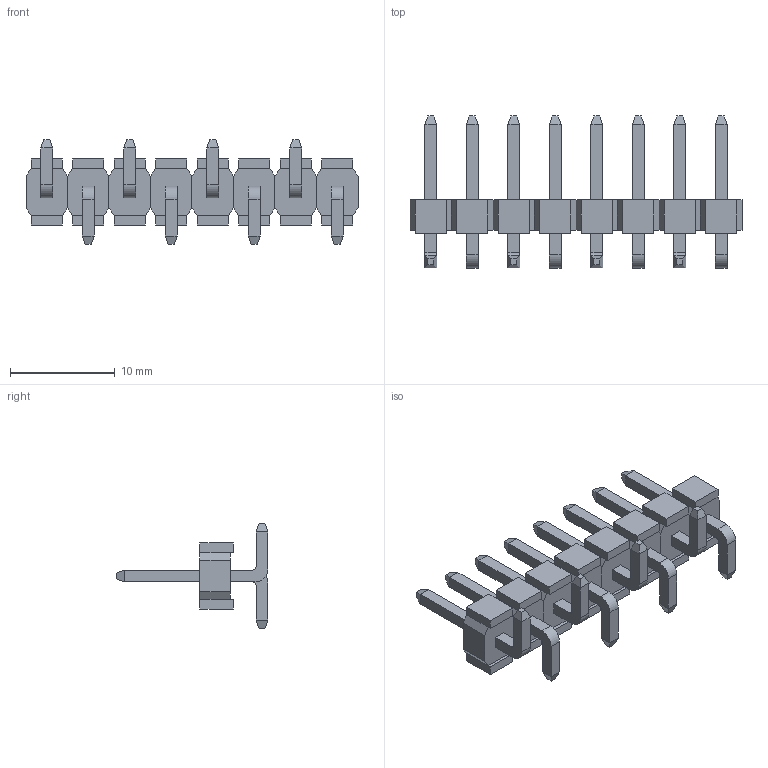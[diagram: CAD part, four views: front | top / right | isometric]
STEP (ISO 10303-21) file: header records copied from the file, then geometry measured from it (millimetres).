
FILE_DESCRIPTION (( 'STEP AP214' ), '1' );
FILE_NAME ('PZ396-1-8-S-3.2-XX-X(L14.5) (3.96等齬 齬渀 泂え 呿詢3.2-HCTL).STEP', '2024-11-26T06:38:50', ( '' ), ( '' ), 'SwSTEP 2.0', 'SolidWorks 2022', '' );
FILE_SCHEMA (( 'AUTOMOTIVE_DESIGN' ));
Length unit declared in the file: millimetre
Products named in the file (1): PZ396-1-8-S-3.2-XX-X(L14.5) (3.96等齬 齬渀 泂え 呿詢3.2-HCTL)
Bounding box: 31.68 x 14.5 x 10 mm (x, y, z)
Volume: 691.7 mm3; surface area: 1387.9 mm2
Topology: 8 solids, 8 shells, 320 faces, 768 edges, 480 vertices
Faces by surface type: plane 304, cylinder 16
Entity records: 11029 total; most frequent: CARTESIAN_POINT 1569, ORIENTED_EDGE 1536, DIRECTION 1442, EDGE_CURVE 768, VECTOR 736, LINE 736, VERTEX_POINT 480, AXIS2_PLACEMENT_3D 353
